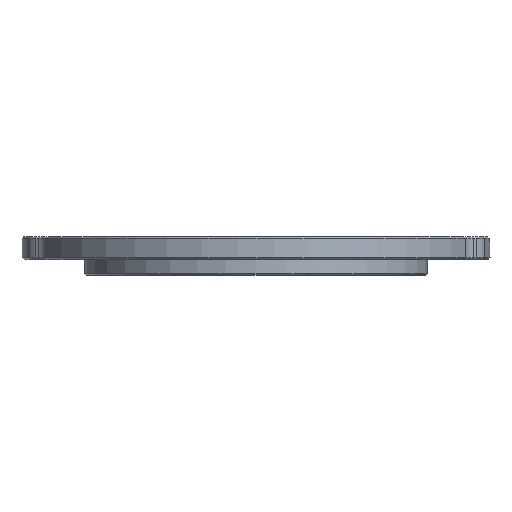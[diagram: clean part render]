
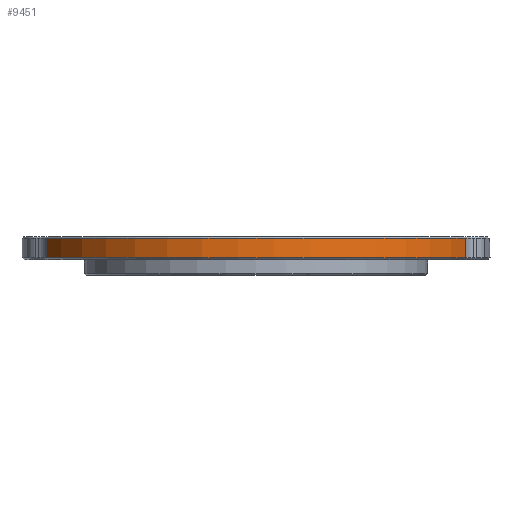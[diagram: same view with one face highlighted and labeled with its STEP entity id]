
A CAD part, front view. The second image highlights one B-rep face of the part: STEP entity #9451.
In plain terms, the highlighted cylindrical face has radius 57.15 mm (diameter 114.3 mm), a partial arc.
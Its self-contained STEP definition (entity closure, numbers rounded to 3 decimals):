
#28 = EDGE_CURVE ( 'NONE', #14677, #17793, #12868, .T. ) ;
#151 = DIRECTION ( 'NONE',  ( 0., 0., 1. ) ) ;
#1356 = LINE ( 'NONE', #7184, #13875 ) ;
#1484 = DIRECTION ( 'NONE',  ( 0., 0., -1. ) ) ;
#2106 = AXIS2_PLACEMENT_3D ( 'NONE', #7122, #1484, #13218 ) ;
#2282 = DIRECTION ( 'NONE',  ( 1., 0., 0. ) ) ;
#3091 = EDGE_LOOP ( 'NONE', ( #15930, #14675, #4403, #3662 ) ) ;
#3311 = VERTEX_POINT ( 'NONE', #15945 ) ;
#3662 = ORIENTED_EDGE ( 'NONE', *, *, #28, .T. ) ;
#4403 = ORIENTED_EDGE ( 'NONE', *, *, #16163, .T. ) ;
#5517 = CARTESIAN_POINT ( 'NONE',  ( 53.872, -19.077, 5.5 ) ) ;
#5983 = CARTESIAN_POINT ( 'NONE',  ( 53.872, -19.077, 6. ) ) ;
#6902 = DIRECTION ( 'NONE',  ( 0., 0., -1. ) ) ;
#7122 = CARTESIAN_POINT ( 'NONE',  ( 0., 0., 6. ) ) ;
#7184 = CARTESIAN_POINT ( 'NONE',  ( -53.872, -19.077, 6. ) ) ;
#7348 = DIRECTION ( 'NONE',  ( 1., 0., 0. ) ) ;
#7544 = LINE ( 'NONE', #5983, #10881 ) ;
#8782 = FACE_OUTER_BOUND ( 'NONE', #3091, .T. ) ;
#9451 = ADVANCED_FACE ( 'NONE', ( #8782 ), #19133, .T. ) ;
#9492 = CARTESIAN_POINT ( 'NONE',  ( -53.872, -19.077, 0.5 ) ) ;
#10722 = AXIS2_PLACEMENT_3D ( 'NONE', #15286, #18390, #2282 ) ;
#10881 = VECTOR ( 'NONE', #151, 1000. ) ;
#11840 = CIRCLE ( 'NONE', #12767, 57.15 ) ;
#12767 = AXIS2_PLACEMENT_3D ( 'NONE', #15629, #17279, #7348 ) ;
#12868 = CIRCLE ( 'NONE', #10722, 57.15 ) ;
#13218 = DIRECTION ( 'NONE',  ( -1., 0., 0. ) ) ;
#13875 = VECTOR ( 'NONE', #6902, 1000. ) ;
#14675 = ORIENTED_EDGE ( 'NONE', *, *, #18461, .T. ) ;
#14677 = VERTEX_POINT ( 'NONE', #5517 ) ;
#15097 = VERTEX_POINT ( 'NONE', #9492 ) ;
#15286 = CARTESIAN_POINT ( 'NONE',  ( 0., 0., 5.5 ) ) ;
#15629 = CARTESIAN_POINT ( 'NONE',  ( 0., 0., 0.5 ) ) ;
#15930 = ORIENTED_EDGE ( 'NONE', *, *, #19160, .T. ) ;
#15945 = CARTESIAN_POINT ( 'NONE',  ( 53.872, -19.077, 0.5 ) ) ;
#16163 = EDGE_CURVE ( 'NONE', #3311, #14677, #7544, .T. ) ;
#16552 = CARTESIAN_POINT ( 'NONE',  ( -53.872, -19.077, 5.5 ) ) ;
#17279 = DIRECTION ( 'NONE',  ( 0., 0., 1. ) ) ;
#17793 = VERTEX_POINT ( 'NONE', #16552 ) ;
#18390 = DIRECTION ( 'NONE',  ( 0., 0., -1. ) ) ;
#18461 = EDGE_CURVE ( 'NONE', #15097, #3311, #11840, .T. ) ;
#19133 = CYLINDRICAL_SURFACE ( 'NONE', #2106, 57.15 ) ;
#19160 = EDGE_CURVE ( 'NONE', #17793, #15097, #1356, .T. ) ;
